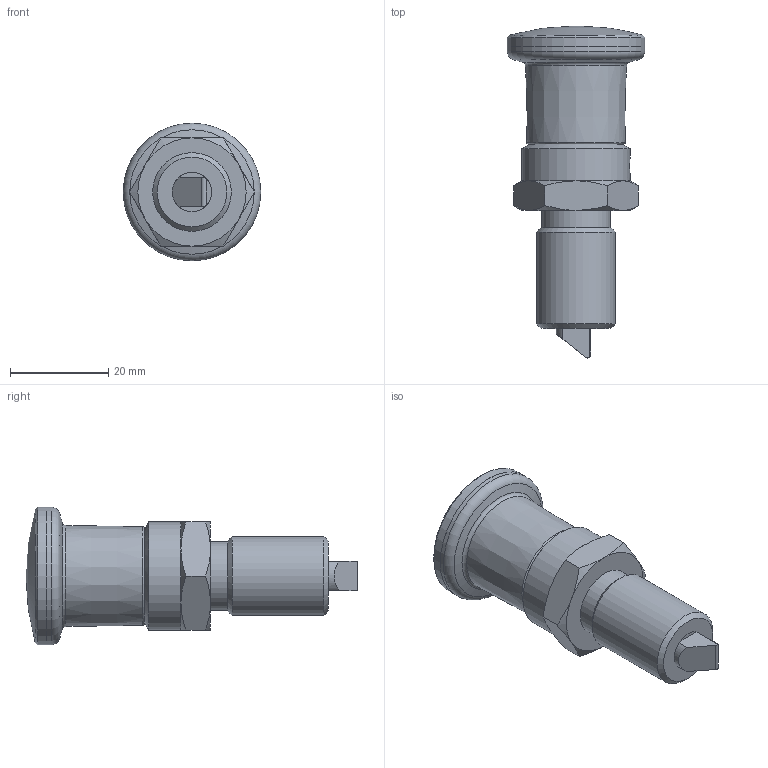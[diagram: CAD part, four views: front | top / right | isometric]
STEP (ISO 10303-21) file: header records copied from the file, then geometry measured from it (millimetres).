
FILE_DESCRIPTION(/* description */ ('STEP AP214'),/* implementation_level */ '2;1');
FILE_NAME(/* name */ 'Indexing Plunger_ Stainless Steel GN 824-6-6-C-NI (deactivated)',/* time_stamp */ '2024-11-28T10:49:41+01:00',/* author */ ('License CC BY-ND 4.0'),/* organization */ ('CADENAS'),/* preprocessor_version */ 'ST-DEVELOPER v19.3',/* originating_system */ 'PARTsolutions',/* authorisation */ ' ');
FILE_SCHEMA (('AUTOMOTIVE_DESIGN {1 0 10303 214 3 1 1}'));
Length unit declared in the file: millimetre
Products named in the file (3): Indexing Plunger, Stainless Steel GN 824-6-6-C-NI (deactivated); Indexing Plunger, Stainless Steel GN 824-6-6-C-NI (closed)-1; Indexing Plunger, Stainless Steel GN 824-6-6-C-NI (closed)-2
Assembly tree (2 placements, depth 2):
  Indexing Plunger, Stainless Steel GN 824-6-6-C-NI (deactivated)
    Indexing Plunger, Stainless Steel GN 824-6-6-C-NI (closed)-1
    Indexing Plunger, Stainless Steel GN 824-6-6-C-NI (closed)-2
Bounding box: 28 x 67.5 x 28 mm (x, y, z)
Volume: 17716.6 mm3; surface area: 9593.8 mm2
Topology: 2 solids, 2 shells, 83 faces, 179 edges, 111 vertices
Faces by surface type: plane 40, cone 21, cylinder 18, torus 3, sphere 1
Full cylindrical faces by diameter (mm): 3.3 x1, 6 x2, 8 x2, 9 x2, 10.5 x1, 14 x1, 16 x1, 22 x1, 27.98 x1, 28 x1
Entity records: 2750 total; most frequent: CARTESIAN_POINT 455, DIRECTION 348, ORIENTED_EDGE 294, AXIS2_PLACEMENT_3D 149, EDGE_CURVE 147, EDGE_LOOP 122, FACE_BOUND 122, VERTEX_POINT 105
